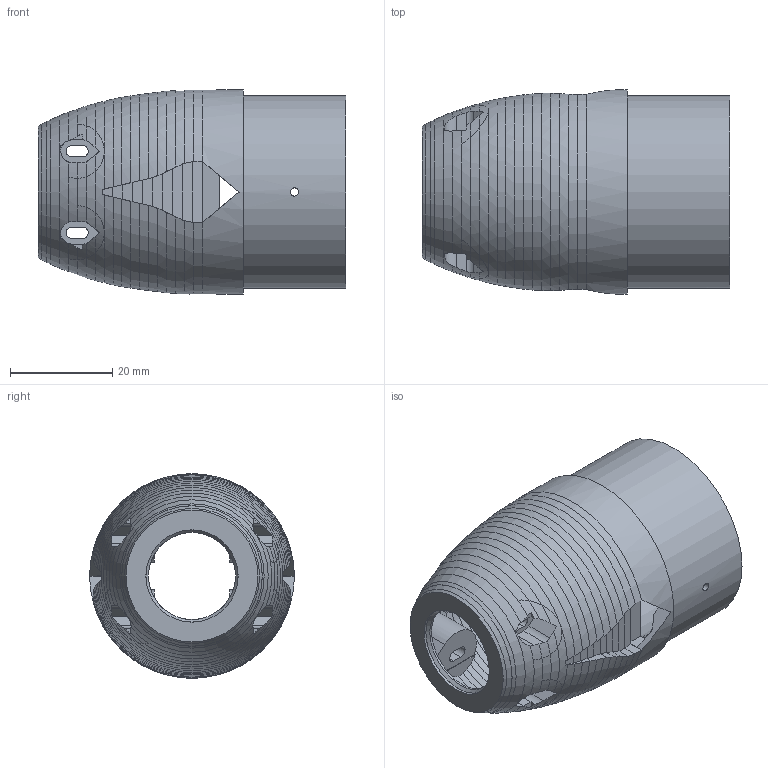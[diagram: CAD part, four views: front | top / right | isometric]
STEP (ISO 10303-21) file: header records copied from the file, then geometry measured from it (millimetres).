
FILE_DESCRIPTION(('SkyG Speed 90B - revision C6B-8 - 2026-10-10','N0O-nose-dji-o4'),'2;1');
FILE_NAME('N0O-nose-dji-o4_C6B-8','2026-10-10T23:18:27',('Author'),( 'Open CASCADE'),'Open CASCADE STEP processor 7.9','Open CASCADE 7.9' ,'Unknown');
FILE_SCHEMA(('AUTOMOTIVE_DESIGN { 1 0 10303 214 1 1 1 1 }'));
Length unit declared in the file: millimetre
Products named in the file (1): N0O-nose-dji-o4 C6B-8
Bounding box: 60.1 x 40 x 40 mm (x, y, z)
Volume: 13439.1 mm3; surface area: 16025.2 mm2
Topology: 1 solids, 1 shells, 468 faces, 1320 edges, 851 vertices
Faces by surface type: plane 211, cone 135, bspline 68, cylinder 54
Full cylindrical faces by diameter (mm): 1.6 x2, 2 x1, 17.04 x1, 18.046 x1, 33.8 x1, 37.7 x1, 40 x1
Entity records: 39766 total; most frequent: CARTESIAN_POINT 15928, DIRECTION 3740, ORIENTED_EDGE 2640, PCURVE 2640, DEFINITIONAL_REPRESENTATION 2640, LINE 1762, VECTOR 1762, B_SPLINE_CURVE_WITH_KNOTS 1422
